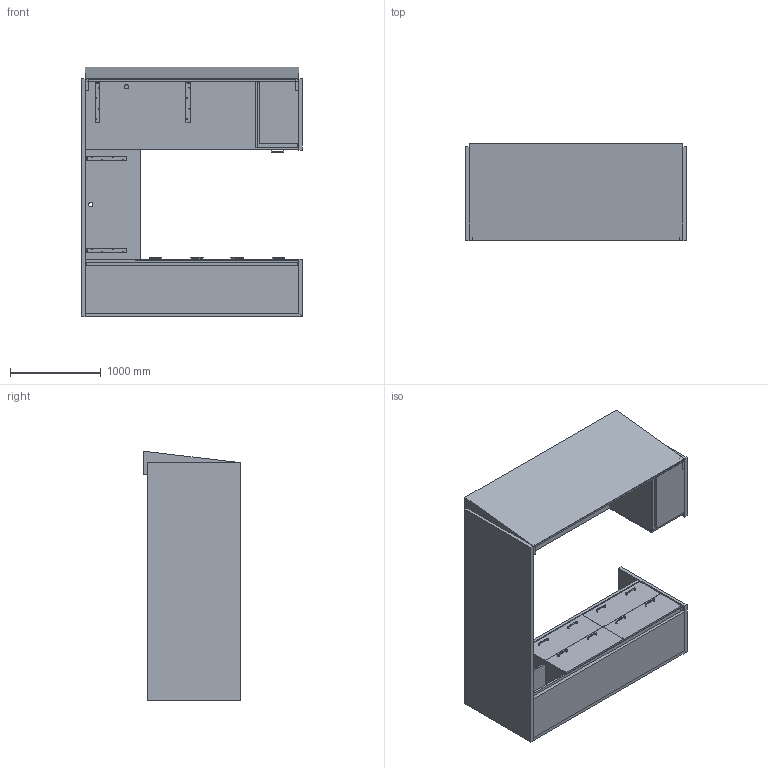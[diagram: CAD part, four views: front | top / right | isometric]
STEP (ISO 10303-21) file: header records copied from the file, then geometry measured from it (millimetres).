
FILE_DESCRIPTION(/* description */ ('','CAx-IF Rec.Pracs.---Representation and Presentation of Product Manufacturing Information (PMI)---4.0---2014-10-13'),/* implementation_level */ '2;1');
FILE_NAME(/* name */ 'RECEPTION_FOUNDATION 2.stp',/* time_stamp */ '2024-12-07T18:49:45-05:00',/* author */ ('mbowman'),/* organization */ (''),/* preprocessor_version */ 'ST-DEVELOPER v19.2',/* originating_system */ 'Autodesk Inventor 2023',/* authorisation */ '');
FILE_SCHEMA (('AP242_MANAGED_MODEL_BASED_3D_ENGINEERING_MIM_LF { 1 0 10303 442 1 1 4 }'));
Length unit declared in the file: inch
Products named in the file (9): FOUNDATION^ADMIN 2_U-SHAPE-SOLID ASSEMBLY; FOUNDATION^ADMIN 2_U-SHAPE-PARTS SOLID; FOUNDATION^PEDESTAL_LEGAL BBF 26x29.75D-SOLID ASSEMBLY; FOUNDATION^PEDESTAL_LEGAL BBF 26x24D-PARTS SOLID; FOUNDATION^PEDESTAL_PLINTH-17.25x27.38; FOUNDATION^ADMIN 1_42x81 ANGLED FRONT TRANSACTION-PARTS SOLID; FOUNDATION^ADMIN 2_CREDENZA-PARTS SOLID; SCHWINN 22334 PULL; CANTILEVER BRACKET-10x18
Assembly tree (21 placements, depth 3):
  FOUNDATION^ADMIN 2_U-SHAPE-SOLID ASSEMBLY
    FOUNDATION^ADMIN 2_U-SHAPE-PARTS SOLID
    FOUNDATION^PEDESTAL_LEGAL BBF 26x29.75D-SOLID ASSEMBLY
      FOUNDATION^PEDESTAL_LEGAL BBF 26x24D-PARTS SOLID
      SCHWINN 22334 PULL  x3
    CANTILEVER BRACKET-10x18  x4
    FOUNDATION^PEDESTAL_PLINTH-17.25x27.38
    FOUNDATION^ADMIN 1_42x81 ANGLED FRONT TRANSACTION-PARTS SOLID
    FOUNDATION^ADMIN 2_CREDENZA-PARTS SOLID
    SCHWINN 22334 PULL  x8
Bounding box: 2438.4 x 1066.8 x 2755.9 mm (x, y, z)
Volume: 804550148.4 mm3; surface area: 58475885 mm2
Topology: 50 solids, 50 shells, 542 faces, 1226 edges, 804 vertices
Faces by surface type: plane 379, cylinder 125, cone 38
Full cylindrical faces by diameter (mm): 3.683 x22, 5 x20, 6.35 x16, 7.938 x12, 48.26 x3
Entity records: 9797 total; most frequent: CARTESIAN_POINT 1955, DIRECTION 1425, ORIENTED_EDGE 1210, EDGE_CURVE 605, LINE 525, VECTOR 525, AXIS2_PLACEMENT_3D 450, STYLED_ITEM 402
